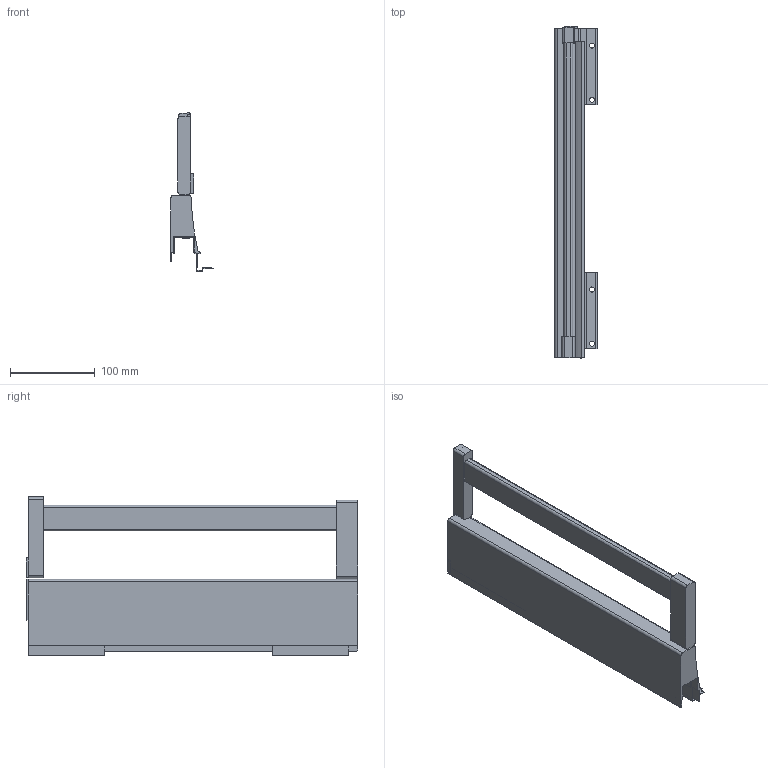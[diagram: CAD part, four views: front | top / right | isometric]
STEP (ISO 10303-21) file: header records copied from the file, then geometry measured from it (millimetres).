
FILE_DESCRIPTION (( 'STEP AP214' ), '1' );
FILE_NAME ('_XP Agantis Dekorseite H95 NL400 LI Rechteckreling.step', '2010-07-08T06:08:22', ( 'grass' ), ( '' ), 'SwSTEP 2.0', 'SolidWorks 2010', '' );
FILE_SCHEMA (( 'AUTOMOTIVE_DESIGN' ));
Length unit declared in the file: millimetre
Products named in the file (1): _XP Agantis Dekorseite H95 NL400 LI Rechteckreling
Bounding box: 50.01 x 392.45 x 187 mm (x, y, z)
Volume: 710792.2 mm3; surface area: 170242.3 mm2
Topology: 2 solids, 2 shells, 138 faces, 393 edges, 258 vertices
Faces by surface type: plane 103, cylinder 35
Entity records: 4519 total; most frequent: CARTESIAN_POINT 790, ORIENTED_EDGE 786, DIRECTION 742, EDGE_CURVE 393, VECTOR 322, LINE 322, VERTEX_POINT 258, AXIS2_PLACEMENT_3D 210
